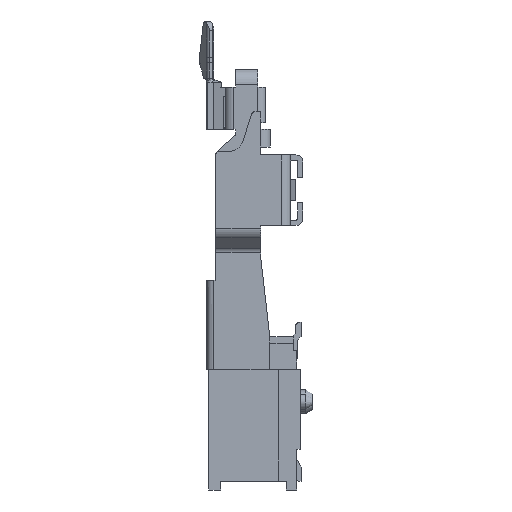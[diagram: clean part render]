
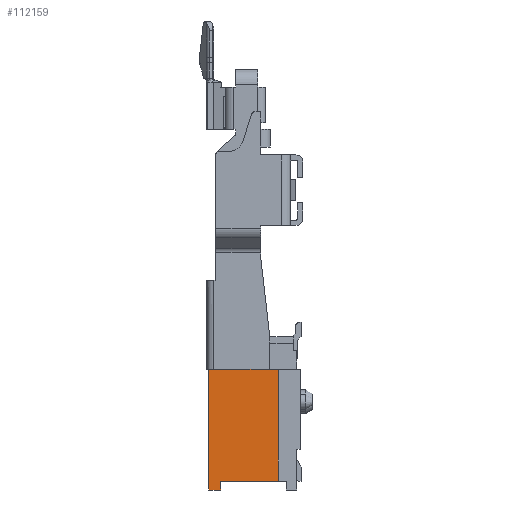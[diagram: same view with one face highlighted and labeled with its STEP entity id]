
A CAD part, left-side view. The second image highlights one B-rep face of the part: STEP entity #112159.
In plain terms, the highlighted planar face has unit normal (-1, 0, 0).
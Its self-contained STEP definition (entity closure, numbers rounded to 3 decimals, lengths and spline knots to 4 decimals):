
#27637=ORIENTED_EDGE('',*,*,#39786,.T.);
#27638=ORIENTED_EDGE('',*,*,#39780,.F.);
#27639=ORIENTED_EDGE('',*,*,#39774,.F.);
#27640=ORIENTED_EDGE('',*,*,#39762,.F.);
#27641=ORIENTED_EDGE('',*,*,#39769,.F.);
#27642=ORIENTED_EDGE('',*,*,#39788,.F.);
#39762=EDGE_CURVE('',#47786,#47787,#57706,.T.);
#39769=EDGE_CURVE('',#47789,#47786,#57713,.T.);
#39774=EDGE_CURVE('',#47787,#47791,#57718,.T.);
#39780=EDGE_CURVE('',#47791,#47793,#57724,.T.);
#39786=EDGE_CURVE('',#47795,#47793,#57727,.T.);
#39788=EDGE_CURVE('',#47795,#47789,#57729,.T.);
#47786=VERTEX_POINT('',#165960);
#47787=VERTEX_POINT('',#165961);
#47789=VERTEX_POINT('',#165971);
#47791=VERTEX_POINT('',#165985);
#47793=VERTEX_POINT('',#165995);
#47795=VERTEX_POINT('',#166008);
#57706=LINE('',#165959,#67640);
#57713=LINE('',#165972,#67647);
#57718=LINE('',#165984,#67652);
#57724=LINE('',#165994,#67658);
#57727=LINE('',#166007,#67661);
#57729=LINE('',#166012,#67663);
#67640=VECTOR('',#140953,1000.);
#67647=VECTOR('',#140964,1000.);
#67652=VECTOR('',#140981,1000.);
#67658=VECTOR('',#140991,1000.);
#67661=VECTOR('',#141010,1000.);
#67663=VECTOR('',#141016,1000.);
#71816=EDGE_LOOP('',(#27637,#27638,#27639,#27640,#27641,#27642));
#75969=FACE_BOUND('',#71816,.T.);
#78995=PLANE('',#118470);
#112159=ADVANCED_FACE('',(#75969),#78995,.F.);
#118470=AXIS2_PLACEMENT_3D('',#166013,#141017,#141018);
#140953=DIRECTION('',(0.,0.,-1.));
#140964=DIRECTION('',(0.,1.,0.));
#140981=DIRECTION('',(0.,1.,0.));
#140991=DIRECTION('',(0.,0.,1.));
#141010=DIRECTION('',(0.,1.,0.));
#141016=DIRECTION('',(0.,0.,-1.));
#141017=DIRECTION('',(1.,0.,0.));
#141018=DIRECTION('',(0.,0.,-1.));
#165959=CARTESIAN_POINT('',(-35.5,1.86,-8.2));
#165960=CARTESIAN_POINT('',(-35.5,1.86,-8.2));
#165961=CARTESIAN_POINT('',(-35.5,1.86,-8.7));
#165971=CARTESIAN_POINT('',(-35.5,-1.41,-8.2));
#165972=CARTESIAN_POINT('',(-35.5,-1.41,-8.2));
#165984=CARTESIAN_POINT('',(-35.5,1.86,-8.7));
#165985=CARTESIAN_POINT('',(-35.5,2.54,-8.7));
#165994=CARTESIAN_POINT('',(-35.5,2.54,-8.7));
#165995=CARTESIAN_POINT('',(-35.5,2.54,-1.85));
#166007=CARTESIAN_POINT('',(-35.5,-1.41,-1.85));
#166008=CARTESIAN_POINT('',(-35.5,-1.41,-1.85));
#166012=CARTESIAN_POINT('',(-35.5,-1.41,-1.85));
#166013=CARTESIAN_POINT('',(-35.5,0.,0.));
